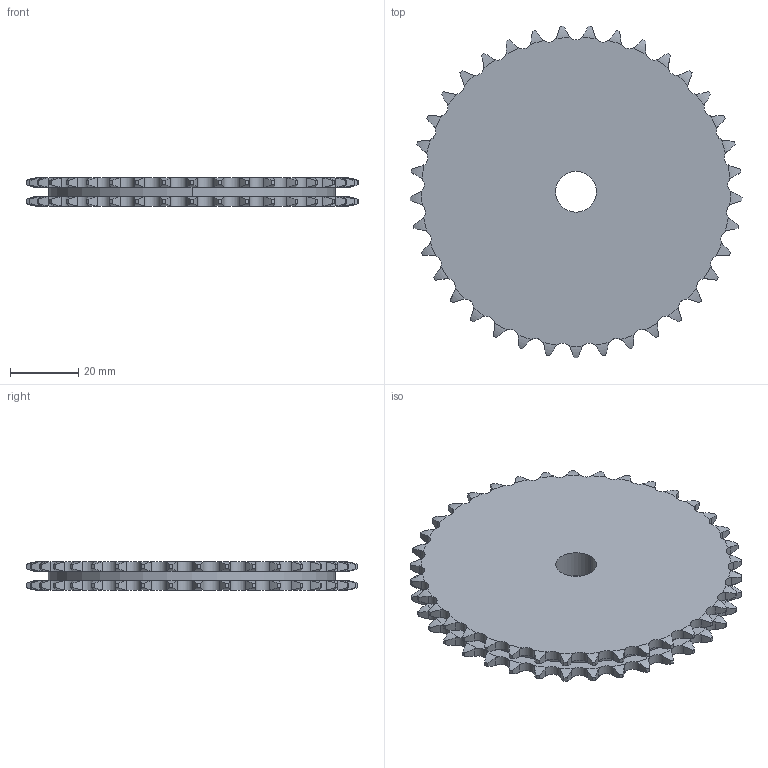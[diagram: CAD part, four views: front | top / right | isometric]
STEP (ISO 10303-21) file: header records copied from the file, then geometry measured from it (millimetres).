
FILE_DESCRIPTION((''),'2;1');
FILE_NAME('500-082-0037_PRT','2021-02-12T',('Brieden'),('Brieden'),'PRO/ENGINEER BY PARAMETRIC TECHNOLOGY CORPORATION, 2010160','PRO/ENGINEER BY PARAMETRIC TECHNOLOGY CORPORATION, 2010160','');
FILE_SCHEMA(('AUTOMOTIVE_DESIGN { 1 0 10303 214 1 1 1 1 }'));
Length unit declared in the file: millimetre
Products named in the file (1): 500-082-0037_PRT
Bounding box: 97.55 x 97.46 x 8.3 mm (x, y, z)
Volume: 51547.1 mm3; surface area: 18728.5 mm2
Topology: 1 solids, 1 shells, 452 faces, 1344 edges, 896 vertices
Faces by surface type: cylinder 300, torus 148, plane 4
Entity records: 21063 total; most frequent: CARTESIAN_POINT 5556, ORIENTED_EDGE 2688, DIRECTION 2108, PRESENTATION_STYLE_ASSIGNMENT 1345, STYLED_ITEM 1345, CURVE_STYLE 1344, EDGE_CURVE 1344, AXIS2_PLACEMENT_3D 904
